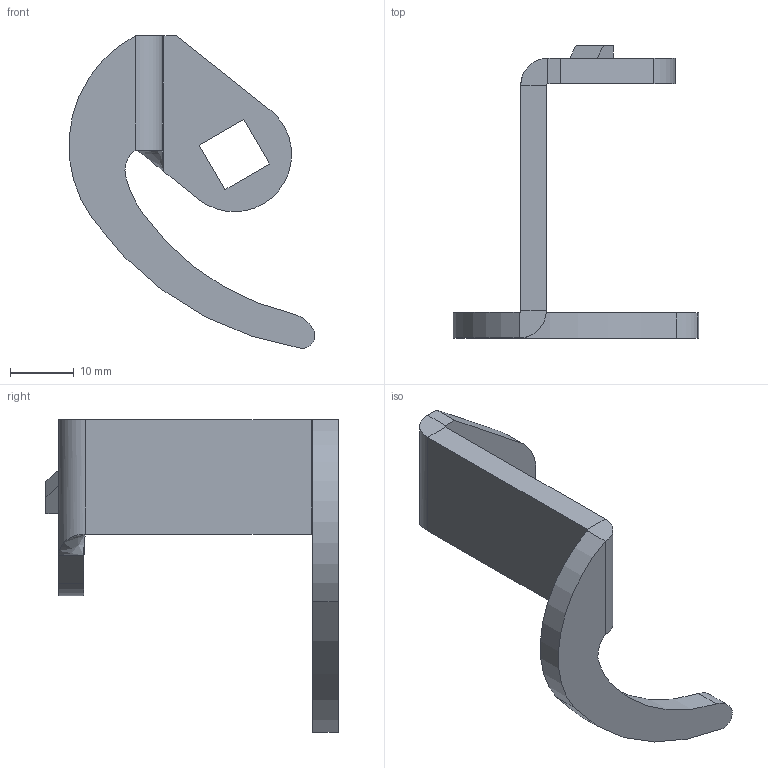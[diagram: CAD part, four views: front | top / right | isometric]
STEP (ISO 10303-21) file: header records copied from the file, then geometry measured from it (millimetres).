
FILE_DESCRIPTION (( 'STEP AP214' ), '1' );
FILE_NAME ('1C.J-6000.04.STEP', '2016-08-17T12:17:01', ( 'RST-Dolba' ), ( '' ), 'SwSTEP 2.0', 'SolidWorks 2015', '' );
FILE_SCHEMA (( 'AUTOMOTIVE_DESIGN' ));
Length unit declared in the file: millimetre
Products named in the file (1): 1C.J-6000.04
Bounding box: 38.67 x 46 x 49.19 mm (x, y, z)
Volume: 6129.4 mm3; surface area: 4263.4 mm2
Topology: 1 solids, 1 shells, 39 faces, 92 edges, 56 vertices
Faces by surface type: plane 23, cylinder 15, bspline 1
Entity records: 1167 total; most frequent: CARTESIAN_POINT 221, DIRECTION 196, ORIENTED_EDGE 184, EDGE_CURVE 92, AXIS2_PLACEMENT_3D 67, VECTOR 62, LINE 62, VERTEX_POINT 56
